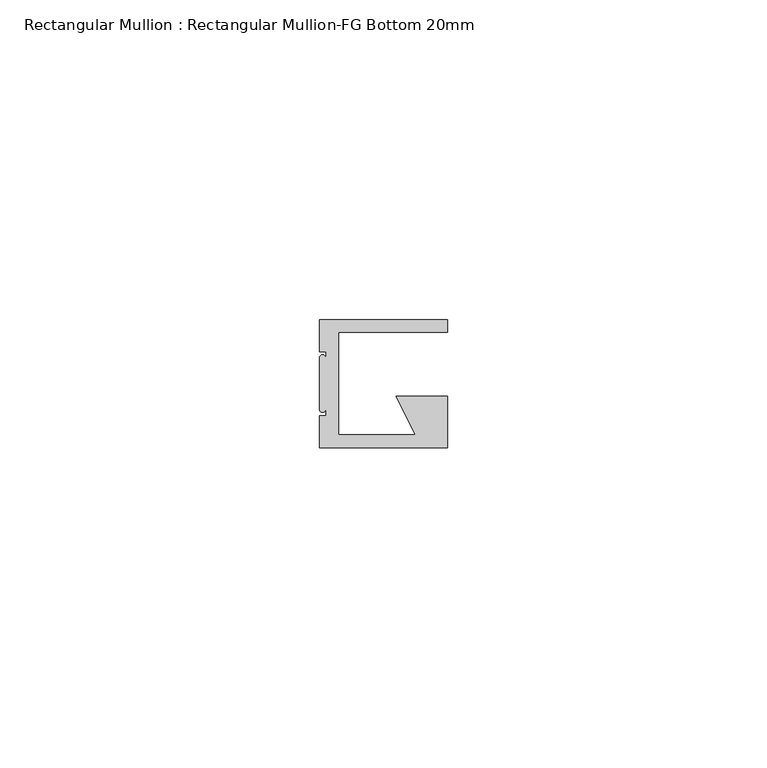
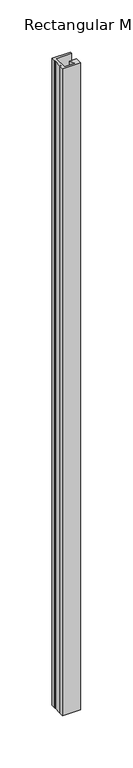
"""IFC4 building model written with IfcOpenShell, lengths in millimetres: member geometry, Rectangular Mullion : Rectangular Mullion-FG Bottom 20mm."""

from ifc_helpers import new_model, si_unit, frame, origin, place, context, project, spatial, circle_curve, source, transform, mapped, element, save
from ifc_brep_helpers import plane_surface, cylinder_surface, advanced_brep


def rectangular_mullion_rectangular_mullion_fg_bottom_20mm_cffc065b(model_context):
    return source(origin(), model_context, "Body", "AdvancedBrep", [
        advanced_brep(
        [(-20.0, -5.0, 0.0), (-19.0, -5.0, 0.0), (-19.0, -6.0, 0.0), (-20.0, -6.0, 0.0), (-20.0, -14.0, 0.0), (-19.0, -14.0, 0.0), (-19.0, -15.0, 0.0), (-20.0, -15.0, 0.0), (-20.0, -20.0, 0.0), (0.0, -20.0, 0.0), (0.0, -18.0, 0.0), (0.0, -12.0, 0.0), (-8.0, -12.0, 0.0), (-5.0, -18.0, 0.0), (-17.0, -18.0, 0.0), (-17.0, -2.0, 0.0), (0.0, -2.0, 0.0), (0.0, 0.0, 0.0), (-20.0, 0.0, 0.0), (-20.0, -5.0, -754.0), (-20.0, 0.0, -754.0), (0.0, 0.0, -754.0), (0.0, -2.0, -754.0), (-17.0, -2.0, -754.0), (-17.0, -18.0, -754.0), (-5.0, -18.0, -754.0), (-8.0, -12.0, -754.0), (0.0, -12.0, -754.0), (0.0, -18.0, -754.0), (0.0, -20.0, -754.0), (-20.0, -20.0, -754.0), (-20.0, -15.0, -754.0), (-19.0, -15.0, -754.0), (-19.0, -14.0, -754.0), (-20.0, -14.0, -754.0), (-20.0, -6.0, -754.0), (-19.0, -6.0, -754.0), (-19.0, -5.0, -754.0)],
        [
            (0, 1),
            (1, 2),
            (2, 3, circle_curve(frame((-19.5, -6.0, 0.0), z_axis=(0.0, 0.0, 1.0), x_axis=(-1.0, 0.0, 0.0)), 0.5)),
            (3, 4),
            (4, 5, circle_curve(frame((-19.5, -14.0, 0.0), z_axis=(0.0, 0.0, 1.0), x_axis=(-1.0, 0.0, 0.0)), 0.5)),
            (5, 6),
            (6, 7),
            (7, 8),
            (8, 9),
            (9, 10),
            (10, 11),
            (11, 12),
            (12, 13),
            (13, 14),
            (14, 15),
            (15, 16),
            (16, 17),
            (17, 18),
            (18, 0),
            (19, 20),
            (20, 21),
            (21, 22),
            (22, 23),
            (23, 24),
            (24, 25),
            (25, 26),
            (26, 27),
            (27, 28),
            (28, 29),
            (29, 30),
            (30, 31),
            (31, 32),
            (32, 33),
            (33, 34, circle_curve(frame((-19.5, -14.0, -754.0), z_axis=(0.0, 0.0, -1.0), x_axis=(-1.0, 0.0, 0.0)), 0.5)),
            (34, 35),
            (35, 36, circle_curve(frame((-19.5, -6.0, -754.0), z_axis=(0.0, 0.0, -1.0), x_axis=(-1.0, 0.0, 0.0)), 0.5)),
            (36, 37),
            (37, 19),
            (0, 19),
            (37, 1),
            (36, 2),
            (35, 3),
            (34, 4),
            (33, 5),
            (32, 6),
            (31, 7),
            (30, 8),
            (29, 9),
            (28, 10),
            (27, 11),
            (26, 12),
            (25, 13),
            (24, 14),
            (23, 15),
            (22, 16),
            (21, 17),
            (20, 18),
        ],
        [
            plane_surface(frame((0.0, -28.2842712, 0.0), z_axis=(0.0, 0.0, 1.0), x_axis=(-1.0, 0.0, 0.0))),
            plane_surface(frame((0.0, -28.2842712, -754.0), z_axis=(0.0, 0.0, -1.0), x_axis=(-1.0, 0.0, 0.0))),
            plane_surface(frame((-20.0, -5.0, 0.0), z_axis=(0.0, -1.0, 0.0), x_axis=(0.0, 0.0, -1.0))),
            plane_surface(frame((-19.0, -5.0, 0.0), z_axis=(-1.0, 0.0, 0.0), x_axis=(0.0, 0.0, -1.0))),
            cylinder_surface(frame((-19.5, -6.0, 0.0), z_axis=(0.0, 0.0, 1.0), x_axis=(-1.0, 0.0, 0.0)), 0.5),
            plane_surface(frame((-20.0, -6.0, 0.0), z_axis=(-1.0, 0.0, 0.0), x_axis=(0.0, 0.0, -1.0))),
            cylinder_surface(frame((-19.5, -14.0, 0.0), z_axis=(0.0, 0.0, 1.0), x_axis=(-1.0, 0.0, 0.0)), 0.5),
            plane_surface(frame((-19.0, -14.0, 0.0), z_axis=(-1.0, 0.0, 0.0), x_axis=(0.0, 0.0, -1.0))),
            plane_surface(frame((-19.0, -15.0, 0.0), z_axis=(0.0, 1.0, 0.0), x_axis=(0.0, 0.0, -1.0))),
            plane_surface(frame((-20.0, -15.0, 0.0), z_axis=(-1.0, 0.0, 0.0), x_axis=(0.0, 0.0, -1.0))),
            plane_surface(frame((-20.0, -20.0, 0.0), z_axis=(0.0, -1.0, 0.0), x_axis=(0.0, 0.0, -1.0))),
            plane_surface(frame((0.0, -20.0, 0.0), z_axis=(1.0, 0.0, 0.0), x_axis=(0.0, 0.0, -1.0))),
            plane_surface(frame((0.0, -18.0, 0.0), z_axis=(1.0, 0.0, 0.0), x_axis=(0.0, 0.0, -1.0))),
            plane_surface(frame((0.0, -12.0, 0.0), z_axis=(0.0, 1.0, 0.0), x_axis=(0.0, 0.0, -1.0))),
            plane_surface(frame((-8.0, -12.0, 0.0), z_axis=(-0.8944271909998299, -0.4472135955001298, 0.0), x_axis=(0.0, 0.0, -1.0))),
            plane_surface(frame((-5.0, -18.0, 0.0), z_axis=(0.0, 1.0, 0.0), x_axis=(0.0, 0.0, -1.0))),
            plane_surface(frame((-17.0, -18.0, 0.0), z_axis=(1.0, 0.0, 0.0), x_axis=(0.0, 0.0, -1.0))),
            plane_surface(frame((-17.0, -2.0, 0.0), z_axis=(0.0, -1.0, 0.0), x_axis=(0.0, 0.0, -1.0))),
            plane_surface(frame((0.0, -2.0, 0.0), z_axis=(1.0, 0.0, 0.0), x_axis=(0.0, 0.0, -1.0))),
            plane_surface(frame((0.0, 0.0, 0.0), z_axis=(0.0, 1.0, 0.0), x_axis=(0.0, 0.0, -1.0))),
            plane_surface(frame((-20.0, 0.0, 0.0), z_axis=(-1.0, 0.0, 0.0), x_axis=(0.0, 0.0, -1.0))),
        ],
        [
            (0, [[1, 2, 3, 4, 5, 6, 7, 8, 9, 10, 11, 12, 13, 14, 15, 16, 17, 18, 19]]),
            (1, [[20, 21, 22, 23, 24, 25, 26, 27, 28, 29, 30, 31, 32, 33, 34, 35, 36, 37, 38]]),
            (2, [[-1, 39, -38, 40]]),
            (3, [[-2, -40, -37, 41]]),
            (4, [[-3, -41, -36, 42]]),
            (5, [[-4, -42, -35, 43]]),
            (6, [[-5, -43, -34, 44]]),
            (7, [[-6, -44, -33, 45]]),
            (8, [[-7, -45, -32, 46]]),
            (9, [[-8, -46, -31, 47]]),
            (10, [[-9, -47, -30, 48]]),
            (11, [[-10, -48, -29, 49]]),
            (12, [[-11, -49, -28, 50]]),
            (13, [[-12, -50, -27, 51]]),
            (14, [[-13, -51, -26, 52]]),
            (15, [[-14, -52, -25, 53]]),
            (16, [[-15, -53, -24, 54]]),
            (17, [[-16, -54, -23, 55]]),
            (18, [[-17, -55, -22, 56]]),
            (19, [[-18, -56, -21, 57]]),
            (20, [[-19, -57, -20, -39]]),
        ],
    ),
    ])


if __name__ == "__main__":
    model = new_model("IFC4")
    model_context = context("Model", 3, world=origin())
    ifc_project = project(units=[si_unit("LENGTHUNIT", "METRE", prefix="MILLI")], contexts=[model_context])
    site = spatial("IfcSite", under=ifc_project)
    building = spatial("IfcBuilding", under=site)
    placement = place(None, origin())
    rectangular_mullion_rectangular_mullion_fg_bottom_20mm_shape = rectangular_mullion_rectangular_mullion_fg_bottom_20mm_cffc065b(model_context)
    element("IfcMember", 1, ObjectType="Rectangular Mullion : Rectangular Mullion-FG Bottom 20mm", at=placement, inside=building, context=model_context, shape_type="MappedRepresentation", body=[
        mapped(rectangular_mullion_rectangular_mullion_fg_bottom_20mm_shape, transform((0.0, 0.0, 0.0), x_axis=(1.0, 0.0, 0.0), y_axis=(0.0, 1.0, 0.0), z_axis=(0.0, 0.0, 1.0))),
    ])
    save(model, "model.ifc")
